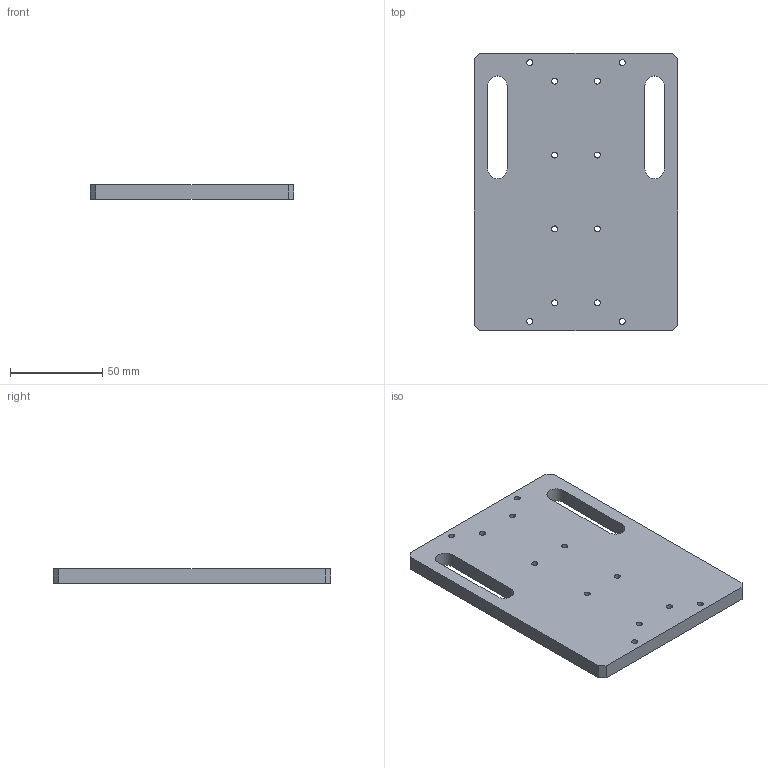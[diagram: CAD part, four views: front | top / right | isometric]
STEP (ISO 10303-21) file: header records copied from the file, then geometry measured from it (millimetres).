
FILE_DESCRIPTION(('CATIA V5 STEP Exchange'),'2;1');
FILE_NAME('D:\姚明阳\1、工装图纸\VDC压堵盖\工装数模和图纸\AGZ133.01_V1.stp','2025-04-25T01:38:41+00:00',('none'),('none'),'CATIA Version 5 Release 21 GA (IN-10)','CATIA V5 STEP AP214','none');
FILE_SCHEMA(('AUTOMOTIVE_DESIGN { 1 0 10303 214 1 1 1 1 }'));
Length unit declared in the file: millimetre
Products named in the file (1): AGZ133.01_V1
Bounding box: 110 x 150 x 8 mm (x, y, z)
Volume: 122118.1 mm3; surface area: 37578.8 mm2
Topology: 1 solids, 1 shells, 42 faces, 120 edges, 80 vertices
Faces by surface type: cylinder 28, plane 14
Entity records: 1362 total; most frequent: ORIENTED_EDGE 240, CARTESIAN_POINT 231, DIRECTION 180, EDGE_CURVE 120, AXIS2_PLACEMENT_3D 87, VERTEX_POINT 80, EDGE_LOOP 70, VECTOR 64
